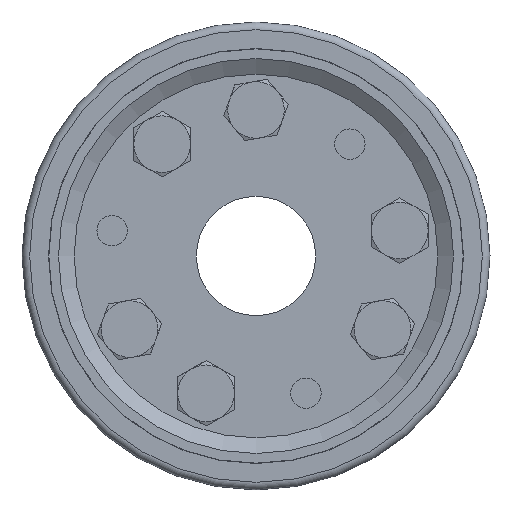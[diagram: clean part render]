
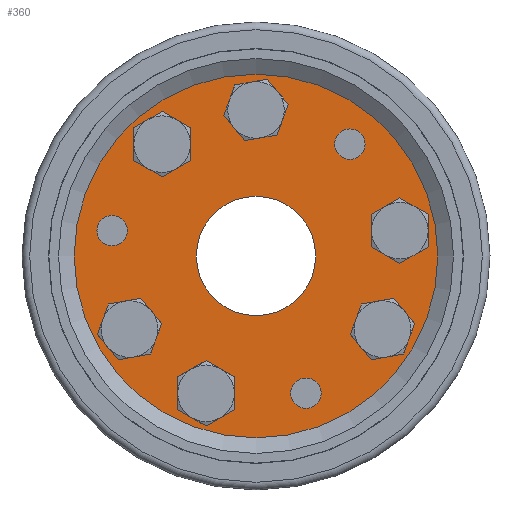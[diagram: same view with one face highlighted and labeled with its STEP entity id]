
A CAD part, left-side view. The second image highlights one B-rep face of the part: STEP entity #360.
In plain terms, the highlighted planar face has unit normal (-1, 0, 0).
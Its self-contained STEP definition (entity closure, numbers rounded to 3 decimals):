
#360 = ADVANCED_FACE( '', ( #1036, #1037, #1038, #1039, #1040, #1041, #1042, #1043, #1044, #1045, #1046 ), #1047, .T. );
#1036 = FACE_BOUND( '', #2215, .T. );
#1037 = FACE_BOUND( '', #2216, .T. );
#1038 = FACE_BOUND( '', #2217, .T. );
#1039 = FACE_OUTER_BOUND( '', #2218, .T. );
#1040 = FACE_BOUND( '', #2219, .T. );
#1041 = FACE_BOUND( '', #2220, .T. );
#1042 = FACE_BOUND( '', #2221, .T. );
#1043 = FACE_BOUND( '', #2222, .T. );
#1044 = FACE_BOUND( '', #2223, .T. );
#1045 = FACE_BOUND( '', #2224, .T. );
#1046 = FACE_BOUND( '', #2225, .T. );
#1047 = PLANE( '', #2226 );
#2215 = EDGE_LOOP( '', ( #3418 ) );
#2216 = EDGE_LOOP( '', ( #3419 ) );
#2217 = EDGE_LOOP( '', ( #3420 ) );
#2218 = EDGE_LOOP( '', ( #3421 ) );
#2219 = EDGE_LOOP( '', ( #3422 ) );
#2220 = EDGE_LOOP( '', ( #3423 ) );
#2221 = EDGE_LOOP( '', ( #3424 ) );
#2222 = EDGE_LOOP( '', ( #3425 ) );
#2223 = EDGE_LOOP( '', ( #3426 ) );
#2224 = EDGE_LOOP( '', ( #3427 ) );
#2225 = EDGE_LOOP( '', ( #3428 ) );
#2226 = AXIS2_PLACEMENT_3D( '', #3429, #3430, #3431 );
#3418 = ORIENTED_EDGE( '', *, *, #5894, .T. );
#3419 = ORIENTED_EDGE( '', *, *, #5895, .T. );
#3420 = ORIENTED_EDGE( '', *, *, #5896, .T. );
#3421 = ORIENTED_EDGE( '', *, *, #5897, .T. );
#3422 = ORIENTED_EDGE( '', *, *, #5898, .F. );
#3423 = ORIENTED_EDGE( '', *, *, #5899, .F. );
#3424 = ORIENTED_EDGE( '', *, *, #5900, .F. );
#3425 = ORIENTED_EDGE( '', *, *, #5901, .F. );
#3426 = ORIENTED_EDGE( '', *, *, #5902, .F. );
#3427 = ORIENTED_EDGE( '', *, *, #5903, .F. );
#3428 = ORIENTED_EDGE( '', *, *, #5904, .T. );
#3429 = CARTESIAN_POINT( '', ( -67., 12.213, 14.555 ) );
#3430 = DIRECTION( '', ( -1., 0., 0. ) );
#3431 = DIRECTION( '', ( 0., 0.643, 0.766 ) );
#5894 = EDGE_CURVE( '', #6839, #6839, #6840, .T. );
#5895 = EDGE_CURVE( '', #6841, #6841, #6842, .T. );
#5896 = EDGE_CURVE( '', #6843, #6843, #6844, .T. );
#5897 = EDGE_CURVE( '', #6845, #6845, #6846, .T. );
#5898 = EDGE_CURVE( '', #6847, #6847, #6848, .T. );
#5899 = EDGE_CURVE( '', #6849, #6849, #6850, .T. );
#5900 = EDGE_CURVE( '', #6851, #6851, #6852, .T. );
#5901 = EDGE_CURVE( '', #6853, #6853, #6854, .T. );
#5902 = EDGE_CURVE( '', #6855, #6855, #6856, .T. );
#5903 = EDGE_CURVE( '', #6857, #6857, #6858, .T. );
#5904 = EDGE_CURVE( '', #6859, #6859, #6860, .F. );
#6839 = VERTEX_POINT( '', #8313 );
#6840 = CIRCLE( '', #8314, 5.1 );
#6841 = VERTEX_POINT( '', #8315 );
#6842 = CIRCLE( '', #8316, 5.1 );
#6843 = VERTEX_POINT( '', #8317 );
#6844 = CIRCLE( '', #8318, 5.1 );
#6845 = VERTEX_POINT( '', #8319 );
#6846 = CIRCLE( '', #8320, 61. );
#6847 = VERTEX_POINT( '', #8321 );
#6848 = CIRCLE( '', #8322, 8.6 );
#6849 = VERTEX_POINT( '', #8323 );
#6850 = CIRCLE( '', #8324, 8.6 );
#6851 = VERTEX_POINT( '', #8325 );
#6852 = CIRCLE( '', #8326, 8.6 );
#6853 = VERTEX_POINT( '', #8327 );
#6854 = CIRCLE( '', #8328, 8.6 );
#6855 = VERTEX_POINT( '', #8329 );
#6856 = CIRCLE( '', #8330, 8.6 );
#6857 = VERTEX_POINT( '', #8331 );
#6858 = CIRCLE( '', #8332, 8.6 );
#6859 = VERTEX_POINT( '', #8333 );
#6860 = CIRCLE( '', #8334, 20. );
#8313 = CARTESIAN_POINT( '', ( -67., -13.481, -42.138 ) );
#8314 = AXIS2_PLACEMENT_3D( '', #10737, #10738, #10739 );
#8315 = CARTESIAN_POINT( '', ( -67., -28.218, 41.443 ) );
#8316 = AXIS2_PLACEMENT_3D( '', #10740, #10741, #10742 );
#8317 = CARTESIAN_POINT( '', ( -67., 51.534, 12.416 ) );
#8318 = AXIS2_PLACEMENT_3D( '', #10743, #10744, #10745 );
#8319 = CARTESIAN_POINT( '', ( -67., 39.21, 46.729 ) );
#8320 = AXIS2_PLACEMENT_3D( '', #10746, #10747, #10748 );
#8321 = CARTESIAN_POINT( '', ( -67., 42.435, -15.9 ) );
#8322 = AXIS2_PLACEMENT_3D( '', #10749, #10750, #10751 );
#8323 = CARTESIAN_POINT( '', ( -67., 0., 57.6 ) );
#8324 = AXIS2_PLACEMENT_3D( '', #10752, #10753, #10754 );
#8325 = CARTESIAN_POINT( '', ( -67., -42.435, -15.9 ) );
#8326 = AXIS2_PLACEMENT_3D( '', #10755, #10756, #10757 );
#8327 = CARTESIAN_POINT( '', ( -67., -48.256, 17.109 ) );
#8328 = AXIS2_PLACEMENT_3D( '', #10758, #10759, #10760 );
#8329 = CARTESIAN_POINT( '', ( -67., 16.759, -37.445 ) );
#8330 = AXIS2_PLACEMENT_3D( '', #10761, #10762, #10763 );
#8331 = CARTESIAN_POINT( '', ( -67., 31.497, 46.136 ) );
#8332 = AXIS2_PLACEMENT_3D( '', #10764, #10765, #10766 );
#8333 = CARTESIAN_POINT( '', ( -67., 0., 20. ) );
#8334 = AXIS2_PLACEMENT_3D( '', #10767, #10768, #10769 );
#10737 = CARTESIAN_POINT( '', ( -67., -16.759, -46.045 ) );
#10738 = DIRECTION( '', ( 1., 0., 0. ) );
#10739 = DIRECTION( '', ( 0., 0.643, 0.766 ) );
#10740 = CARTESIAN_POINT( '', ( -67., -31.497, 37.536 ) );
#10741 = DIRECTION( '', ( 1., 0., 0. ) );
#10742 = DIRECTION( '', ( 0., 0.643, 0.766 ) );
#10743 = CARTESIAN_POINT( '', ( -67., 48.256, 8.509 ) );
#10744 = DIRECTION( '', ( 1., 0., 0. ) );
#10745 = DIRECTION( '', ( 0., 0.643, 0.766 ) );
#10746 = CARTESIAN_POINT( '', ( -67., 0., 0. ) );
#10747 = DIRECTION( '', ( -1., 0., 0. ) );
#10748 = DIRECTION( '', ( 0., 0.643, 0.766 ) );
#10749 = CARTESIAN_POINT( '', ( -67., 42.435, -24.5 ) );
#10750 = DIRECTION( '', ( -1., 0., 0. ) );
#10751 = DIRECTION( '', ( 0., 0., 1. ) );
#10752 = CARTESIAN_POINT( '', ( -67., 0., 49. ) );
#10753 = DIRECTION( '', ( -1., 0., 0. ) );
#10754 = DIRECTION( '', ( 0., 0., 1. ) );
#10755 = CARTESIAN_POINT( '', ( -67., -42.435, -24.5 ) );
#10756 = DIRECTION( '', ( -1., 0., 0. ) );
#10757 = DIRECTION( '', ( 0., 0., 1. ) );
#10758 = CARTESIAN_POINT( '', ( -67., -48.256, 8.509 ) );
#10759 = DIRECTION( '', ( -1., 0., 0. ) );
#10760 = DIRECTION( '', ( 0., 0., 1. ) );
#10761 = CARTESIAN_POINT( '', ( -67., 16.759, -46.045 ) );
#10762 = DIRECTION( '', ( -1., 0., 0. ) );
#10763 = DIRECTION( '', ( 0., 0., 1. ) );
#10764 = CARTESIAN_POINT( '', ( -67., 31.497, 37.536 ) );
#10765 = DIRECTION( '', ( -1., 0., 0. ) );
#10766 = DIRECTION( '', ( 0., 0., 1. ) );
#10767 = CARTESIAN_POINT( '', ( -67., 0., 0. ) );
#10768 = DIRECTION( '', ( -1., 0., 0. ) );
#10769 = DIRECTION( '', ( 0., 0., 1. ) );
